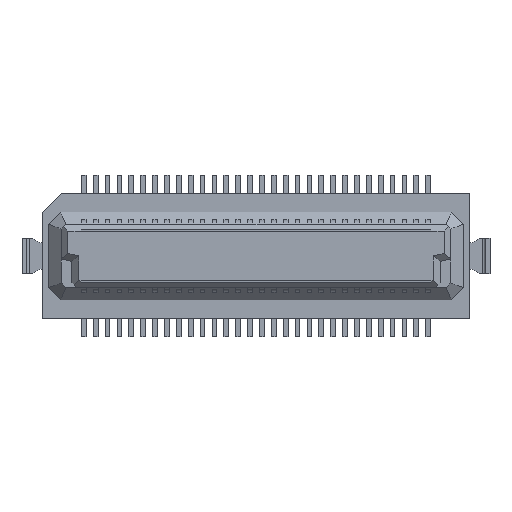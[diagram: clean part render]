
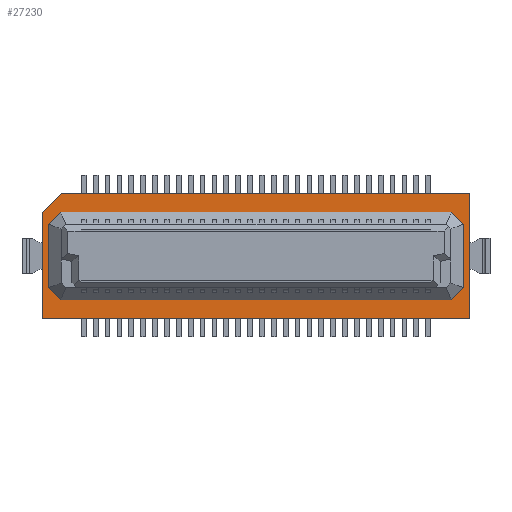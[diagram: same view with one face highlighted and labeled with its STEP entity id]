
A CAD part, top view. The second image highlights one B-rep face of the part: STEP entity #27230.
In plain terms, the highlighted planar face has unit normal (0, 0, 1).
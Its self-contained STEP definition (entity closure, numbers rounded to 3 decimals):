
#60=CARTESIAN_POINT('',(7.123,0.,0.8));
#70=DIRECTION('',(0.,1.,0.));
#80=VECTOR('',#70,1.);
#90=LINE('',#60,#80);
#100=CARTESIAN_POINT('',(7.123,-4.691,0.8));
#110=VERTEX_POINT('',#100);
#120=CARTESIAN_POINT('',(7.123,-0.191,0.8));
#130=VERTEX_POINT('',#120);
#140=EDGE_CURVE('',#110,#130,#90,.T.);
#11350=CARTESIAN_POINT('',(7.923,0.609,0.8));
#11360=VERTEX_POINT('',#11350);
#11390=CARTESIAN_POINT('',(0.,-7.314,0.8));
#11400=DIRECTION('',(-0.707,-0.707,0.));
#11410=VECTOR('',#11400,1.);
#11420=LINE('',#11390,#11410);
#11430=EDGE_CURVE('',#11360,#130,#11420,.T.);
#25890=CARTESIAN_POINT('',(25.123,0.609,0.8));
#25900=VERTEX_POINT('',#25890);
#25930=CARTESIAN_POINT('',(27.5,0.609,0.8));
#25940=DIRECTION('',(-1.,0.,0.));
#25950=VECTOR('',#25940,1.);
#25960=LINE('',#25930,#25950);
#25970=EDGE_CURVE('',#25900,#11360,#25960,.T.);
#26330=CARTESIAN_POINT('',(58.741,-1.959,0.8));
#26340=DIRECTION('',(0.,0.,1.));
#26350=DIRECTION('',(1.,0.,0.));
#26360=AXIS2_PLACEMENT_3D('',#26330,#26340,#26350);
#26370=PLANE('',#26360);
#26380=CARTESIAN_POINT('',(8.097,0.,0.8));
#26390=DIRECTION('',(-0.707,-0.707,0.));
#26400=VECTOR('',#26390,1.);
#26410=LINE('',#26380,#26400);
#26420=CARTESIAN_POINT('',(7.906,-0.191,
0.8));
#26430=VERTEX_POINT('',#26420);
#26440=CARTESIAN_POINT('',(7.398,-0.698,0.8));
#26450=VERTEX_POINT('',#26440);
#26460=EDGE_CURVE('',#26430,#26450,#26410,.T.);
#26470=ORIENTED_EDGE('',*,*,#26460,.F.);
#26480=CARTESIAN_POINT('',(7.398,0.,0.8));
#26490=DIRECTION('',(0.,-1.,0.));
#26500=VECTOR('',#26490,1.);
#26510=LINE('',#26480,#26500);
#26520=CARTESIAN_POINT('',(7.398,-3.383,0.8));
#26530=VERTEX_POINT('',#26520);
#26540=EDGE_CURVE('',#26450,#26530,#26510,.T.);
#26550=ORIENTED_EDGE('',*,*,#26540,.F.);
#26560=CARTESIAN_POINT('',(4.015,0.,0.8));
#26570=DIRECTION('',(0.707,-0.707,0.));
#26580=VECTOR('',#26570,1.);
#26590=LINE('',#26560,#26580);
#26600=CARTESIAN_POINT('',(7.906,-3.891,0.8));
#26610=VERTEX_POINT('',#26600);
#26620=EDGE_CURVE('',#26530,#26610,#26590,.T.);
#26630=ORIENTED_EDGE('',*,*,#26620,.F.);
#26640=CARTESIAN_POINT('',(7.5,-3.891,0.8));
#26650=DIRECTION('',(1.,0.,0.));
#26660=VECTOR('',#26650,1.);
#26670=LINE('',#26640,#26660);
#26680=CARTESIAN_POINT('',(24.341,-3.891,0.8));
#26690=VERTEX_POINT('',#26680);
#26700=EDGE_CURVE('',#26610,#26690,#26670,.T.);
#26710=ORIENTED_EDGE('',*,*,#26700,.F.);
#26720=CARTESIAN_POINT('',(28.231,0.,0.8));
#26730=DIRECTION('',(0.707,0.707,0.));
#26740=VECTOR('',#26730,1.);
#26750=LINE('',#26720,#26740);
#26760=CARTESIAN_POINT('',(24.848,-3.383,0.8));
#26770=VERTEX_POINT('',#26760);
#26780=EDGE_CURVE('',#26690,#26770,#26750,.T.);
#26790=ORIENTED_EDGE('',*,*,#26780,.F.);
#26800=CARTESIAN_POINT('',(24.848,0.,0.8));
#26810=DIRECTION('',(0.,1.,0.));
#26820=VECTOR('',#26810,1.);
#26830=LINE('',#26800,#26820);
#26840=CARTESIAN_POINT('',(24.848,-0.698,
0.8));
#26850=VERTEX_POINT('',#26840);
#26860=EDGE_CURVE('',#26770,#26850,#26830,.T.);
#26870=ORIENTED_EDGE('',*,*,#26860,.F.);
#26880=CARTESIAN_POINT('',(24.15,0.,0.8));
#26890=DIRECTION('',(-0.707,0.707,0.));
#26900=VECTOR('',#26890,1.);
#26910=LINE('',#26880,#26900);
#26920=CARTESIAN_POINT('',(24.341,-0.191,
0.8));
#26930=VERTEX_POINT('',#26920);
#26940=EDGE_CURVE('',#26850,#26930,#26910,.T.);
#26950=ORIENTED_EDGE('',*,*,#26940,.F.);
#26960=CARTESIAN_POINT('',(0.,-0.191,0.8));
#26970=DIRECTION('',(-1.,0.,0.));
#26980=VECTOR('',#26970,1.);
#26990=LINE('',#26960,#26980);
#27000=EDGE_CURVE('',#26930,#26430,#26990,.T.);
#27010=ORIENTED_EDGE('',*,*,#27000,.F.);
#27020=EDGE_LOOP('',(#27010,#26950,#26870,#26790,#26710,#26630,#26550,
#26470));
#27030=FACE_BOUND('',#27020,.T.);
#27040=CARTESIAN_POINT('',(25.123,0.,0.8));
#27050=DIRECTION('',(0.,-1.,0.));
#27060=VECTOR('',#27050,1.);
#27070=LINE('',#27040,#27060);
#27080=CARTESIAN_POINT('',(25.123,-4.691,0.8));
#27090=VERTEX_POINT('',#27080);
#27100=EDGE_CURVE('',#25900,#27090,#27070,.T.);
#27110=ORIENTED_EDGE('',*,*,#27100,.F.);
#27120=CARTESIAN_POINT('',(6.5,-4.691,0.8));
#27130=DIRECTION('',(1.,0.,0.));
#27140=VECTOR('',#27130,1.);
#27150=LINE('',#27120,#27140);
#27160=EDGE_CURVE('',#110,#27090,#27150,.T.);
#27170=ORIENTED_EDGE('',*,*,#27160,.T.);
#27180=ORIENTED_EDGE('',*,*,#140,.F.);
#27190=ORIENTED_EDGE('',*,*,#11430,.T.);
#27200=ORIENTED_EDGE('',*,*,#25970,.T.);
#27210=EDGE_LOOP('',(#27200,#27190,#27180,#27170,#27110));
#27220=FACE_OUTER_BOUND('',#27210,.T.);
#27230=ADVANCED_FACE('',(#27030,#27220),#26370,.T.);
